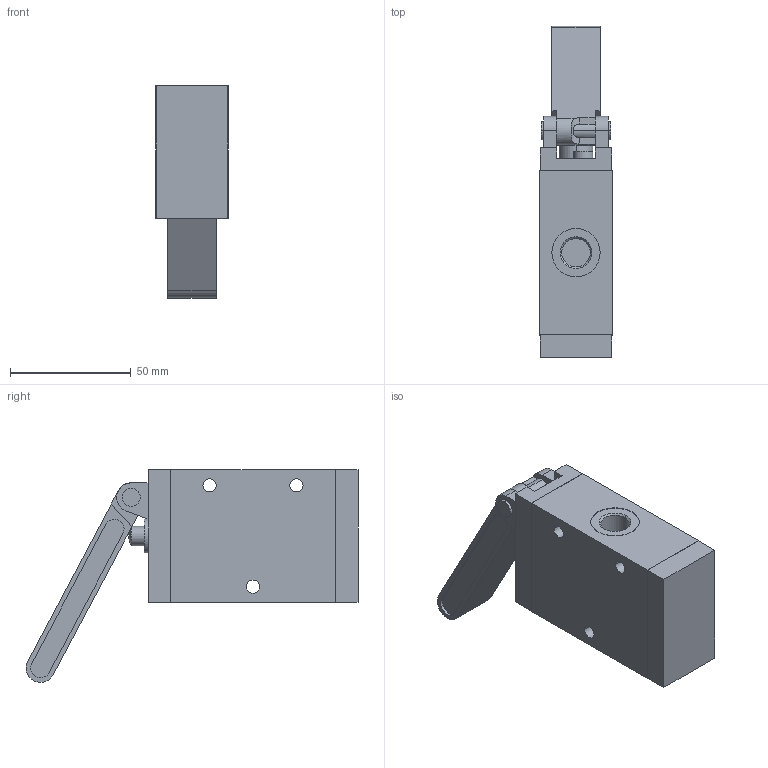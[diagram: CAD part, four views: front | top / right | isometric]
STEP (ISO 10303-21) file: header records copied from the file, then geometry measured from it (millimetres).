
FILE_DESCRIPTION((''),'2;1');
FILE_NAME('5634440100_ASM','2018-07-19T',('tng2hc'),(''),'CREO PARAMETRIC BY PTC INC, 2016260','CREO PARAMETRIC BY PTC INC, 2016260','');
FILE_SCHEMA(('CONFIG_CONTROL_DESIGN'));
Length unit declared in the file: millimetre
Products named in the file (3): 5634440100-A; 5634440100-D; 5634440100_ASM
Assembly tree (2 placements, depth 2):
  5634440100_ASM
    5634440100-A
    5634440100-D
Bounding box: 30 x 137.55 x 88.13 mm (x, y, z)
Volume: 155798.7 mm3; surface area: 29186.9 mm2
Topology: 2 solids, 2 shells, 104 faces, 250 edges, 163 vertices
Faces by surface type: plane 53, cylinder 43, cone 6, sphere 2
Entity records: 3256 total; most frequent: CARTESIAN_POINT 625, DIRECTION 554, ORIENTED_EDGE 496, EDGE_CURVE 248, AXIS2_PLACEMENT_3D 201, VERTEX_POINT 163, VECTOR 152, LINE 152
